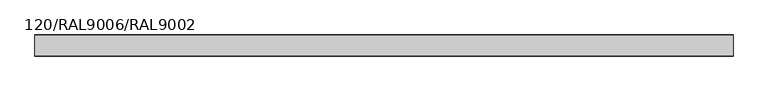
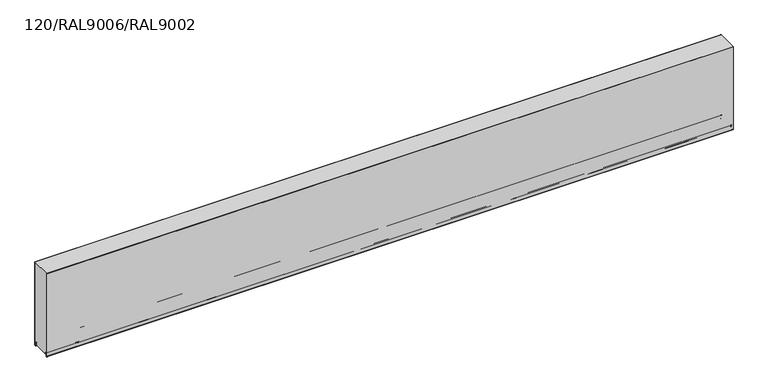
"""IFC4 building model written with IfcOpenShell, lengths in millimetres: plate geometry, TR_C_H_FTV_Panel_cut_GROOVE : 120/RAL9006/RAL9002."""

from ifc_helpers import new_model, si_unit, point, frame, frame_2d, origin, place, context, project, spatial, polyline, circle_curve, trimmed, segment, composite_curve, outline, extrude, source, transform, mapped, element, save


def plate_120_ral9006_ral9002_3de5da87(model_context):
    return source(origin(), model_context, "Body", "SweptSolid", [
        extrude(outline(composite_curve([segment(polyline([(-0.8, 14.4000012), (-9.45, 14.4000012)]), True, "CONTINUOUS"), segment(trimmed(circle_curve(frame_2d((-9.45, 10.1500012)), 4.25), [point((-9.45, 14.4000012))], [point((-13.635433, 10.8880059))], True, "CARTESIAN"), True, "CONTINUOUS"), segment(polyline([(-13.635433, 10.8880059), (-14.7022582, 4.837739)]), True, "CONTINUOUS"), segment(trimmed(circle_curve(frame_2d((-17.6074411, 5.3500012)), 2.95), [point((-14.7022582, 4.837739))], [point((-17.6074411, 2.4000012))], False, "CARTESIAN"), True, "CONTINUOUS"), segment(polyline([(-17.6074411, 2.4000012), (-23.7, 2.4000012), (-23.7, 1.2e-06), (-96.3, 1.2e-06), (-96.3, 2.4000012), (-102.3925589, 2.4000012)]), True, "CONTINUOUS"), segment(trimmed(circle_curve(frame_2d((-102.3925589, 5.3500012)), 2.95), [point((-102.3925589, 2.4000012))], [point((-105.2977418, 4.837739))], False, "CARTESIAN"), True, "CONTINUOUS"), segment(polyline([(-105.2977418, 4.837739), (-106.364567, 10.8880059)]), True, "CONTINUOUS"), segment(trimmed(circle_curve(frame_2d((-110.55, 10.1500012)), 4.25), [point((-106.364567, 10.8880059))], [point((-110.55, 14.4000012))], True, "CARTESIAN"), True, "CONTINUOUS"), segment(polyline([(-110.55, 14.4000012), (-119.2, 14.4000012), (-119.2, 500.0), (-0.8, 500.0), (-0.8, 14.4000012)]), True, "CONTINUOUS")], self_intersect=False)), frame((-1980.0, 0.0, 0.0), z_axis=(1.0, 0.0, 0.0), x_axis=(0.0, 1.0, 0.0)), (0.0, 0.0, 1.0), 3960.0),
        extrude(outline(composite_curve([segment(polyline([(-21.0, 2.4000012), (-17.6074411, 2.4000012)]), True, "CONTINUOUS"), segment(trimmed(circle_curve(frame_2d((-17.6074411, 5.3500012)), 2.95), [point((-17.6074411, 2.4000012))], [point((-14.7022582, 4.837739))], True, "CARTESIAN"), True, "CONTINUOUS"), segment(polyline([(-14.7022582, 4.837739), (-13.635433, 10.8880059)]), True, "CONTINUOUS"), segment(trimmed(circle_curve(frame_2d((-9.45, 10.1500012)), 4.25), [point((-13.635433, 10.8880059))], [point((-5.2, 10.1500012))], False, "CARTESIAN"), True, "CONTINUOUS"), segment(polyline([(-5.2, 10.1500012), (-5.2, -7.4499988)]), True, "CONTINUOUS"), segment(trimmed(circle_curve(frame_2d((-4.05, -7.4499988)), 1.15), [point((-5.2, -7.4499988))], [point((-3.2368272, -8.2631716))], True, "CARTESIAN"), True, "CONTINUOUS"), segment(polyline([(-3.2368272, -8.2631716), (-1.3711418, -6.3974862)]), True, "CONTINUOUS"), segment(trimmed(circle_curve(frame_2d((-2.75, -5.018628)), 1.95), [point((-1.3711418, -6.3974862))], [point((-0.8, -5.018628))], True, "CARTESIAN"), True, "CONTINUOUS"), segment(polyline([(-0.8, -5.018628), (-0.8, 500.0), (0.0, 500.0), (0.0, -5.018628)]), True, "CONTINUOUS"), segment(trimmed(circle_curve(frame_2d((-2.75, -5.018628)), 2.75), [point((0.0, -5.018628))], [point((-0.8054564, -6.9631716))], False, "CARTESIAN"), True, "CONTINUOUS"), segment(polyline([(-0.8054564, -6.9631716), (-2.6711418, -8.8288571)]), True, "CONTINUOUS"), segment(trimmed(circle_curve(frame_2d((-4.05, -7.4499988)), 1.95), [point((-2.6711418, -8.8288571))], [point((-6.0, -7.4499988))], False, "CARTESIAN"), True, "CONTINUOUS"), segment(polyline([(-6.0, -7.4499988), (-6.0, 10.1500012)]), True, "CONTINUOUS"), segment(trimmed(circle_curve(frame_2d((-9.45, 10.1500012)), 3.45), [point((-6.0, 10.1500012))], [point((-12.8475867, 10.7490874))], True, "CARTESIAN"), True, "CONTINUOUS"), segment(polyline([(-12.8475867, 10.7490874), (-13.914412, 4.6988205)]), True, "CONTINUOUS"), segment(trimmed(circle_curve(frame_2d((-17.6074411, 5.3500012)), 3.75), [point((-13.914412, 4.6988205))], [point((-17.6074411, 1.6000012))], False, "CARTESIAN"), True, "CONTINUOUS"), segment(polyline([(-17.6074411, 1.6000012), (-21.0, 1.6000012), (-21.0, 2.4000012)]), True, "CONTINUOUS")], self_intersect=False)), frame((-1980.0, 0.0, 0.0), z_axis=(1.0, 0.0, 0.0), x_axis=(0.0, 1.0, 0.0)), (0.0, 0.0, 1.0), 3960.0),
        extrude(outline(composite_curve([segment(trimmed(circle_curve(frame_2d((-117.25, -5.018628)), 1.95), [point((-119.2, -5.018628))], [point((-118.6288582, -6.3974862))], True, "CARTESIAN"), True, "CONTINUOUS"), segment(polyline([(-118.6288582, -6.3974862), (-116.7631728, -8.2631716)]), True, "CONTINUOUS"), segment(trimmed(circle_curve(frame_2d((-115.95, -7.4499988)), 1.15), [point((-116.7631728, -8.2631716))], [point((-114.8, -7.4499988))], True, "CARTESIAN"), True, "CONTINUOUS"), segment(polyline([(-114.8, -7.4499988), (-114.8, 10.1500012)]), True, "CONTINUOUS"), segment(trimmed(circle_curve(frame_2d((-110.55, 10.1500012)), 4.25), [point((-114.8, 10.1500012))], [point((-106.364567, 10.8880059))], False, "CARTESIAN"), True, "CONTINUOUS"), segment(polyline([(-106.364567, 10.8880059), (-105.2977418, 4.837739)]), True, "CONTINUOUS"), segment(trimmed(circle_curve(frame_2d((-102.3925589, 5.3500012)), 2.95), [point((-105.2977418, 4.837739))], [point((-102.3925589, 2.4000012))], True, "CARTESIAN"), True, "CONTINUOUS"), segment(polyline([(-102.3925589, 2.4000012), (-99.0, 2.4000012), (-99.0, 1.6000012), (-102.3925589, 1.6000012)]), True, "CONTINUOUS"), segment(trimmed(circle_curve(frame_2d((-102.3925589, 5.3500012)), 3.75), [point((-102.3925589, 1.6000012))], [point((-106.085588, 4.6988205))], False, "CARTESIAN"), True, "CONTINUOUS"), segment(polyline([(-106.085588, 4.6988205), (-107.1524133, 10.7490874)]), True, "CONTINUOUS"), segment(trimmed(circle_curve(frame_2d((-110.55, 10.1500012)), 3.45), [point((-107.1524133, 10.7490874))], [point((-114.0, 10.1500012))], True, "CARTESIAN"), True, "CONTINUOUS"), segment(polyline([(-114.0, 10.1500012), (-114.0, -7.4499988)]), True, "CONTINUOUS"), segment(trimmed(circle_curve(frame_2d((-115.95, -7.4499988)), 1.95), [point((-114.0, -7.4499988))], [point((-117.3288582, -8.8288571))], False, "CARTESIAN"), True, "CONTINUOUS"), segment(polyline([(-117.3288582, -8.8288571), (-119.1945436, -6.9631716)]), True, "CONTINUOUS"), segment(trimmed(circle_curve(frame_2d((-117.25, -5.018628)), 2.75), [point((-119.1945436, -6.9631716))], [point((-120.0, -5.018628))], False, "CARTESIAN"), True, "CONTINUOUS"), segment(polyline([(-120.0, -5.018628), (-120.0, 500.0), (-119.2, 500.0), (-119.2, -5.018628)]), True, "CONTINUOUS")], self_intersect=False)), frame((-1980.0, 0.0, 0.0), z_axis=(1.0, 0.0, 0.0), x_axis=(0.0, 1.0, 0.0)), (0.0, 0.0, 1.0), 3960.0),
    ])


if __name__ == "__main__":
    model = new_model("IFC4")
    model_context = context("Model", 3, world=origin())
    ifc_project = project(units=[si_unit("LENGTHUNIT", "METRE", prefix="MILLI")], contexts=[model_context])
    site = spatial("IfcSite", under=ifc_project)
    building = spatial("IfcBuilding", under=site)
    placement = place(None, origin())
    plate_120_ral9006_ral9002_shape = plate_120_ral9006_ral9002_3de5da87(model_context)
    element("IfcPlate", 1, ObjectType="TR_C_H_FTV_Panel_cut_GROOVE : 120/RAL9006/RAL9002", at=placement, inside=building, context=model_context, shape_type="MappedRepresentation", body=[
        mapped(plate_120_ral9006_ral9002_shape, transform((0.0, 0.0, 0.0), x_axis=(1.0, 0.0, 0.0), y_axis=(0.0, 1.0, 0.0), z_axis=(0.0, 0.0, 1.0))),
    ])
    save(model, "model.ifc")
